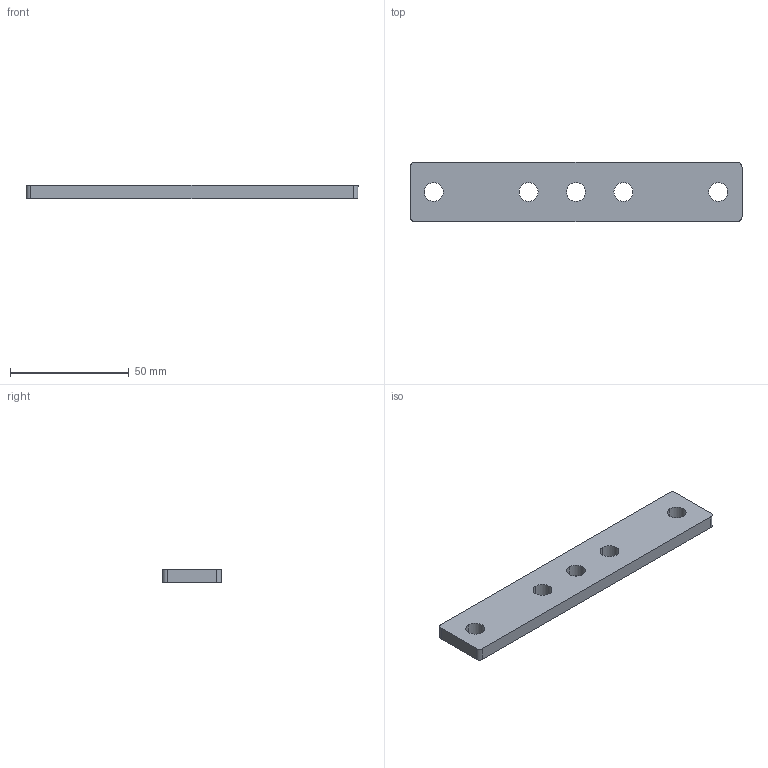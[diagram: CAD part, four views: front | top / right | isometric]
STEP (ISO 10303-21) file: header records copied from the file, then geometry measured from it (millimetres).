
FILE_DESCRIPTION (( 'STEP AP214' ), '1' );
FILE_NAME ('FACS 25x140A.step', '2017-04-05T07:36:36', ( '' ), ( '' ), 'SwSTEP 2.0', 'SolidWorks 2015', '' );
FILE_SCHEMA (( 'AUTOMOTIVE_DESIGN' ));
Length unit declared in the file: millimetre
Products named in the file (1): FACS 25x140A
Bounding box: 140 x 25 x 5.6 mm (x, y, z)
Volume: 18173.3 mm3; surface area: 9023 mm2
Topology: 1 solids, 1 shells, 20 faces, 54 edges, 36 vertices
Faces by surface type: cylinder 14, plane 6
Entity records: 920 total; most frequent: DIRECTION 124, CARTESIAN_POINT 111, ORIENTED_EDGE 108, EDGE_CURVE 54, AXIS2_PLACEMENT_3D 49, VERTEX_POINT 36, EDGE_LOOP 30, CIRCLE 28
